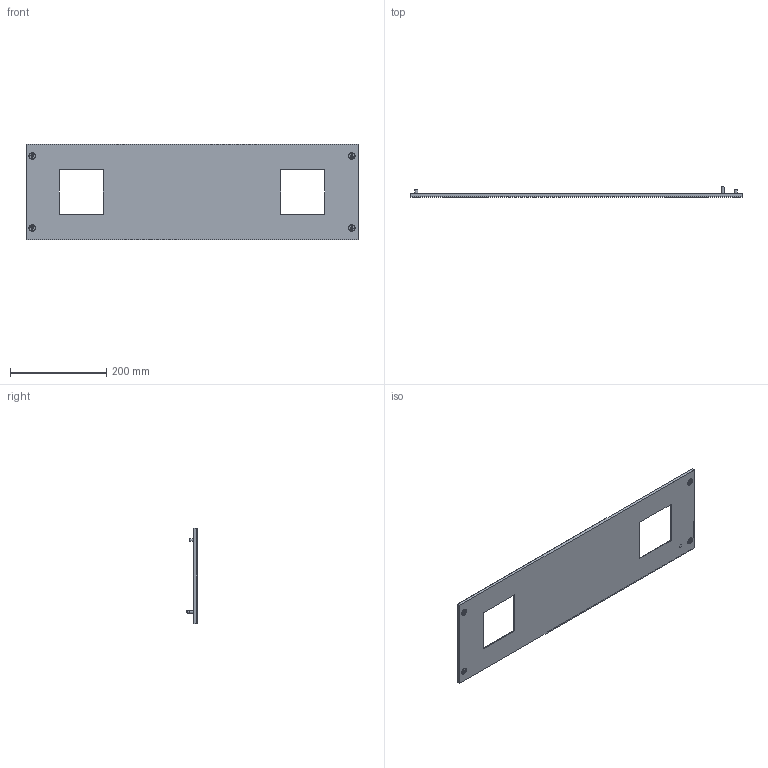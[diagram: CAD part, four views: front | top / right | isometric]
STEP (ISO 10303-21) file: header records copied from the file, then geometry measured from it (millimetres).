
FILE_DESCRIPTION(/* description */ (''),/* implementation_level */ '2;1');
FILE_NAME(/* name */ 'CPX8296',/* time_stamp */ '2025-02-05T07:59:03+01:00',/* author */ ('Anitrano Rafael Marcelo'),/* organization */ ('QUADRITALIA SRL'),/* preprocessor_version */ 'ST-DEVELOPER v19.4',/* originating_system */ 'Solid Edge',/* authorisation */ 'Unknown');
FILE_SCHEMA (('AUTOMOTIVE_DESIGN {1 0 10303 214 3 1 1}'));
Length unit declared in the file: millimetre
Products named in the file (2): CPX8296
Assembly tree (1 placements, depth 2):
  CPX8296
    CPX8296
Bounding box: 691 x 21.8 x 199 mm (x, y, z)
Volume: 196653.2 mm3; surface area: 264527.9 mm2
Topology: 1 solids, 1 shells, 180 faces, 469 edges, 310 vertices
Faces by surface type: plane 85, cylinder 66, cone 21, torus 8
Full cylindrical faces by diameter (mm): 3.96 x4, 6 x5, 7 x1, 12 x4
Entity records: 6433 total; most frequent: DIRECTION 922, CARTESIAN_POINT 872, ORIENTED_EDGE 802, EDGE_CURVE 401, AXIS2_PLACEMENT_3D 339, VERTEX_POINT 289, FACE_BOUND 250, EDGE_LOOP 246
